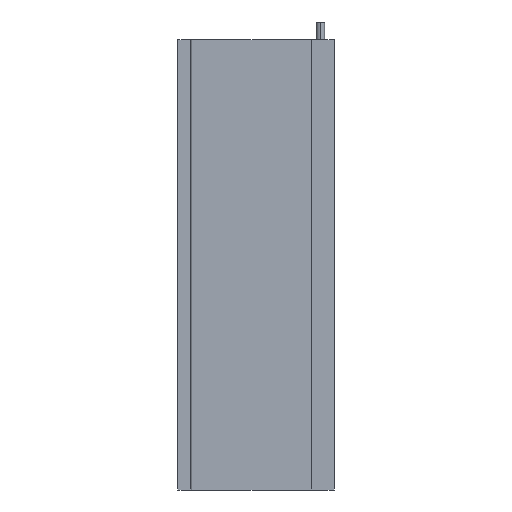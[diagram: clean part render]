
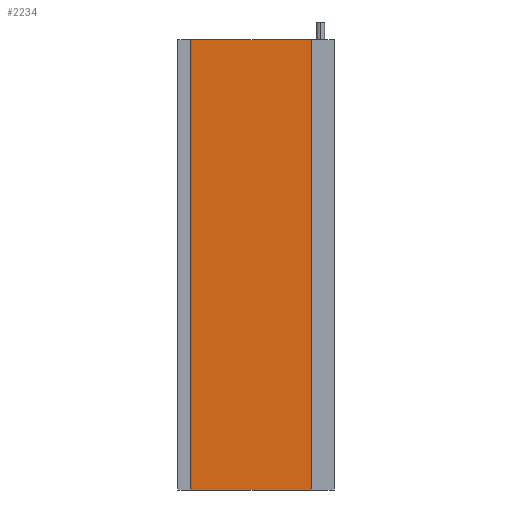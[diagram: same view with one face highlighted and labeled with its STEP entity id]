
A CAD part, left-side view. The second image highlights one B-rep face of the part: STEP entity #2234.
In plain terms, the highlighted planar face has unit normal (-1, 0, 0).
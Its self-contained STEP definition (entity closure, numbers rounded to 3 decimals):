
#9 = DIRECTION ( 'NONE',  ( 0., 0., -1. ) ) ;
#26 = CARTESIAN_POINT ( 'NONE',  ( -5.31, -149.9, 505. ) ) ;
#52 = DIRECTION ( 'NONE',  ( 0., 1., 0. ) ) ;
#345 = CARTESIAN_POINT ( 'NONE',  ( -5.31, -149.9, 505. ) ) ;
#394 = VERTEX_POINT ( 'NONE', #1920 ) ;
#440 = ORIENTED_EDGE ( 'NONE', *, *, #2555, .F. ) ;
#586 = AXIS2_PLACEMENT_3D ( 'NONE', #699, #2291, #52 ) ;
#622 = EDGE_LOOP ( 'NONE', ( #2787, #1918, #440, #2018 ) ) ;
#661 = LINE ( 'NONE', #793, #1805 ) ;
#688 = DIRECTION ( 'NONE',  ( 0., -1., 0. ) ) ;
#699 = CARTESIAN_POINT ( 'NONE',  ( -5.31, -149.9, 505. ) ) ;
#714 = VECTOR ( 'NONE', #688, 1000. ) ;
#793 = CARTESIAN_POINT ( 'NONE',  ( -5.31, -15.5, 505. ) ) ;
#847 = VERTEX_POINT ( 'NONE', #1252 ) ;
#955 = FACE_OUTER_BOUND ( 'NONE', #622, .T. ) ;
#1124 = CARTESIAN_POINT ( 'NONE',  ( -5.31, -149.9, 505. ) ) ;
#1252 = CARTESIAN_POINT ( 'NONE',  ( -5.31, -149.9, 0. ) ) ;
#1279 = CARTESIAN_POINT ( 'NONE',  ( -5.31, -15.5, 505. ) ) ;
#1305 = EDGE_CURVE ( 'NONE', #1549, #394, #661, .T. ) ;
#1389 = PLANE ( 'NONE',  #586 ) ;
#1538 = VECTOR ( 'NONE', #9, 1000. ) ;
#1549 = VERTEX_POINT ( 'NONE', #1279 ) ;
#1676 = LINE ( 'NONE', #26, #1538 ) ;
#1783 = LINE ( 'NONE', #1124, #714 ) ;
#1805 = VECTOR ( 'NONE', #2165, 1000. ) ;
#1918 = ORIENTED_EDGE ( 'NONE', *, *, #2500, .F. ) ;
#1920 = CARTESIAN_POINT ( 'NONE',  ( -5.31, -15.5, 0. ) ) ;
#2018 = ORIENTED_EDGE ( 'NONE', *, *, #1305, .T. ) ;
#2082 = DIRECTION ( 'NONE',  ( 0., -1., 0. ) ) ;
#2165 = DIRECTION ( 'NONE',  ( 0., 0., -1. ) ) ;
#2234 = ADVANCED_FACE ( 'NONE', ( #955 ), #1389, .F. ) ;
#2291 = DIRECTION ( 'NONE',  ( 1., 0., 0. ) ) ;
#2342 = VERTEX_POINT ( 'NONE', #345 ) ;
#2347 = LINE ( 'NONE', #2789, #2880 ) ;
#2500 = EDGE_CURVE ( 'NONE', #2342, #847, #1676, .T. ) ;
#2555 = EDGE_CURVE ( 'NONE', #1549, #2342, #1783, .T. ) ;
#2615 = EDGE_CURVE ( 'NONE', #394, #847, #2347, .T. ) ;
#2787 = ORIENTED_EDGE ( 'NONE', *, *, #2615, .T. ) ;
#2789 = CARTESIAN_POINT ( 'NONE',  ( -5.31, -149.9, 0. ) ) ;
#2880 = VECTOR ( 'NONE', #2082, 1000. ) ;
